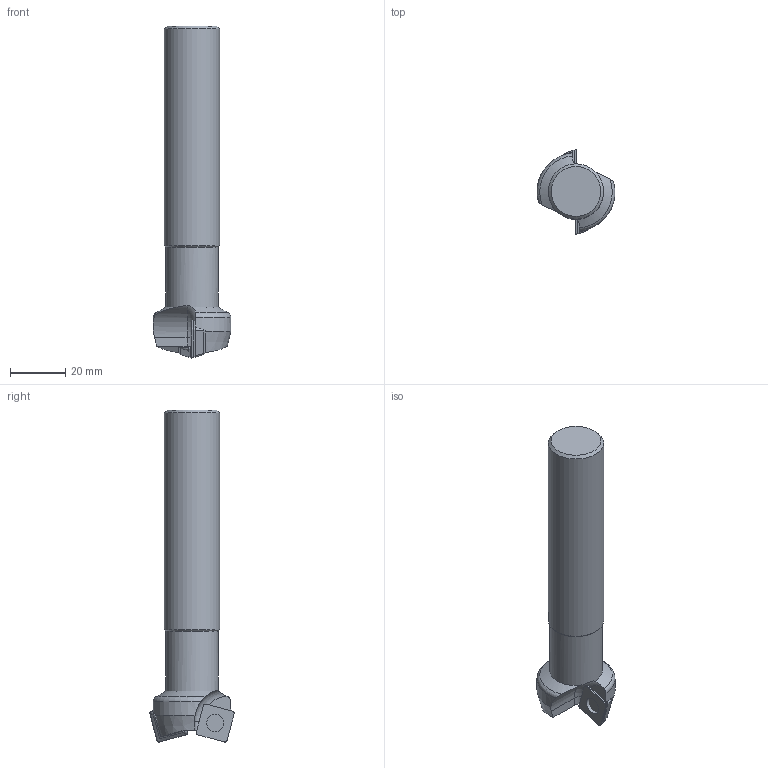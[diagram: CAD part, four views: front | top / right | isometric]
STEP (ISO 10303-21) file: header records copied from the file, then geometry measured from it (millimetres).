
FILE_DESCRIPTION(/* description */ (''),/* implementation_level */ '2;1');
FILE_NAME(/* name */ 'CE15-1125R-S20-HAAS.stp',/* time_stamp */ '2021-09-24T12:10:49+09:00',/* author */ (''),/* organization */ (''),/* preprocessor_version */ 'ST-DEVELOPER v11',/* originating_system */ 'SIEMENS UGS NX 6.0',/* authorisation */ '');
FILE_SCHEMA (('CONFIG_CONTROL_DESIGN'));
Length unit declared in the file: millimetre
Products named in the file (1): user1A84wu6h
Bounding box: 28.15 x 30.49 x 120 mm (x, y, z)
Volume: 36668.3 mm3; surface area: 9297 mm2
Topology: 3 solids, 3 shells, 96 faces, 219 edges, 129 vertices
Faces by surface type: plane 44, bspline 24, cone 14, cylinder 10, torus 4
Full cylindrical faces by diameter (mm): 6.2 x2, 19 x1, 20 x1
Entity records: 2900 total; most frequent: CARTESIAN_POINT 905, ORIENTED_EDGE 420, DIRECTION 354, EDGE_CURVE 210, AXIS2_PLACEMENT_3D 127, VERTEX_POINT 126, EDGE_LOOP 106, LINE 100
